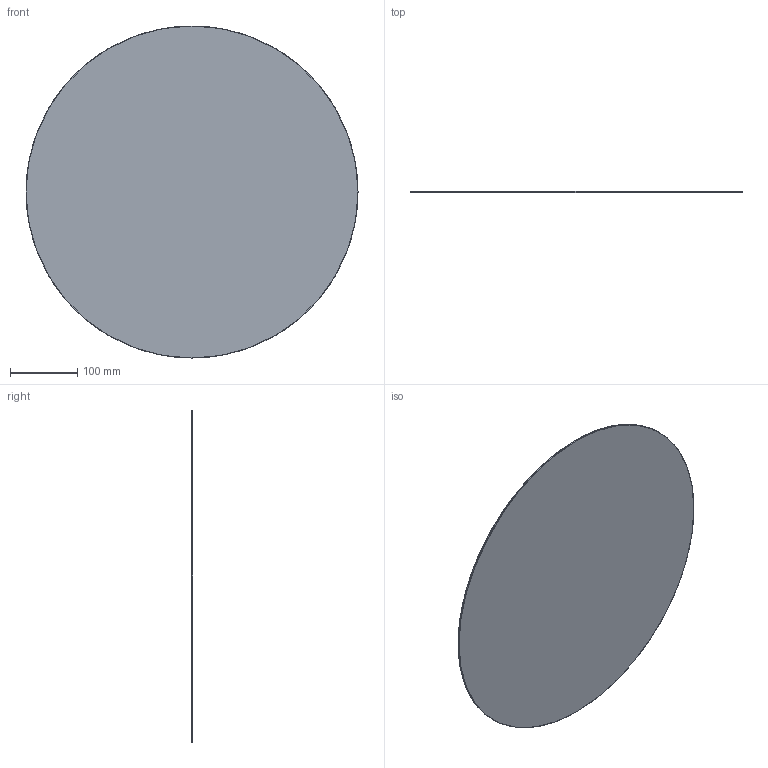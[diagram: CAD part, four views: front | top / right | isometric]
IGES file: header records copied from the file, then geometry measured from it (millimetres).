
Start section: SolidWorks IGES file using analytic representation for surfaces
Global section: file name: C:\Users\danielet\Desktop\3D CARLOS\ISIA-DIF345310-3D\ISIA-DIF345310-3D.IGS; native system: SolidWorks 2018; preprocessor: SolidWorks 2018; author: danielet; date: 211122.131124; units: millimetre
Bounding box: 494 x 2 x 494 mm (x, y, z)
Surface area: 386435 mm2 (no closed solid volume)
Topology: 0 solids, 0 shells, 4 faces, 136 edges, 136 vertices
Faces by surface type: revolution 2, bspline 2
